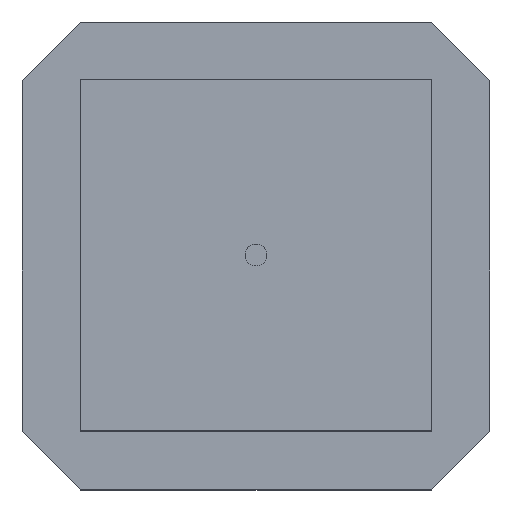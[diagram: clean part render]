
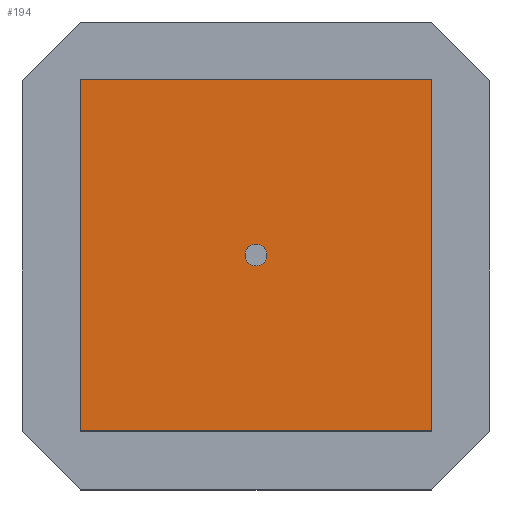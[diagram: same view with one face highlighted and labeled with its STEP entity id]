
A CAD part, top view. The second image highlights one B-rep face of the part: STEP entity #194.
In plain terms, the highlighted planar face has unit normal (0, 0, 1).
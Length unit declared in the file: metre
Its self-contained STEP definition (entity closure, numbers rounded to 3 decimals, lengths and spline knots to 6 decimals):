
#194=ADVANCED_FACE('3:23033',(#812,#813),#814,.T.);
#812=FACE_BOUND('',#1831,.T.);
#813=FACE_OUTER_BOUND('',#1832,.T.);
#814=PLANE('',#1833);
#1831=EDGE_LOOP('',(#3600,#3601));
#1832=EDGE_LOOP('',(#3602,#3603,#3604,#3605));
#1833=AXIS2_PLACEMENT_3D('',#3606,#3607,#3608);
#3600=ORIENTED_EDGE('',*,*,#6212,.F.);
#3601=ORIENTED_EDGE('',*,*,#6169,.F.);
#3602=ORIENTED_EDGE('',*,*,#6209,.F.);
#3603=ORIENTED_EDGE('',*,*,#6213,.F.);
#3604=ORIENTED_EDGE('',*,*,#6214,.F.);
#3605=ORIENTED_EDGE('',*,*,#6215,.F.);
#3606=CARTESIAN_POINT('',(0.0,0.0,0.5207));
#3607=DIRECTION('',(0.0,0.0,1.0));
#3608=DIRECTION('',(1.0,0.0,0.0));
#6169=EDGE_CURVE('3:23110',#7610,#7613,#7614,.T.);
#6209=EDGE_CURVE('0:1555',#7656,#7658,#7659,.F.);
#6212=EDGE_CURVE('3:23110',#7613,#7610,#7662,.T.);
#6213=EDGE_CURVE('0:1565',#7663,#7656,#7664,.F.);
#6214=EDGE_CURVE('0:1575',#7665,#7663,#7666,.F.);
#6215=EDGE_CURVE('0:1585',#7658,#7665,#7667,.F.);
#7610=VERTEX_POINT('',#9360);
#7613=VERTEX_POINT('',#9364);
#7614=CIRCLE('',#9365,0.009525);
#7656=VERTEX_POINT('',#9409);
#7658=VERTEX_POINT('',#9412);
#7659=LINE('',#9413,#9414);
#7662=CIRCLE('',#9418,0.009525);
#7663=VERTEX_POINT('',#9419);
#7664=LINE('',#9420,#9421);
#7665=VERTEX_POINT('',#9422);
#7666=LINE('',#9423,#9424);
#7667=LINE('',#9425,#9426);
#9360=CARTESIAN_POINT('',(-0.009525,0.,0.5207));
#9364=CARTESIAN_POINT('',(0.009525,0.0,0.5207));
#9365=AXIS2_PLACEMENT_3D('',#10869,#10870,#10871);
#9409=CARTESIAN_POINT('',(-0.1524,-0.1524,0.5207));
#9412=CARTESIAN_POINT('',(-0.1524,0.1524,0.5207));
#9413=CARTESIAN_POINT('',(-0.1524,0.0,0.5207));
#9414=VECTOR('',#10983,1.0);
#9418=AXIS2_PLACEMENT_3D('',#10988,#10989,#10990);
#9419=CARTESIAN_POINT('',(0.1524,-0.1524,0.5207));
#9420=CARTESIAN_POINT('',(0.0,-0.1524,0.5207));
#9421=VECTOR('',#10991,1.0);
#9422=CARTESIAN_POINT('',(0.1524,0.1524,0.5207));
#9423=CARTESIAN_POINT('',(0.1524,0.0,0.5207));
#9424=VECTOR('',#10992,1.0);
#9425=CARTESIAN_POINT('',(0.,0.1524,0.5207));
#9426=VECTOR('',#10993,1.0);
#10869=CARTESIAN_POINT('',(0.0,0.0,0.5207));
#10870=DIRECTION('',(0.0,0.0,1.0));
#10871=DIRECTION('',(1.0,0.0,-0.0));
#10983=DIRECTION('',(0.0,-1.0,0.0));
#10988=CARTESIAN_POINT('',(0.0,0.0,0.5207));
#10989=DIRECTION('',(0.0,0.0,1.0));
#10990=DIRECTION('',(1.0,0.0,-0.0));
#10991=DIRECTION('',(1.0,0.0,-0.0));
#10992=DIRECTION('',(-0.0,1.0,0.0));
#10993=DIRECTION('',(-1.0,0.0,0.0));
